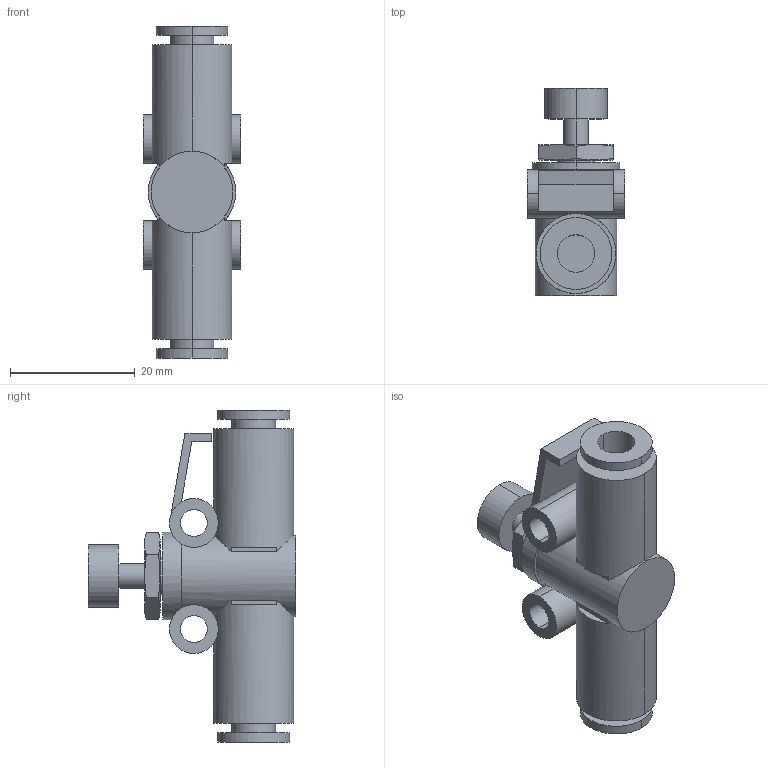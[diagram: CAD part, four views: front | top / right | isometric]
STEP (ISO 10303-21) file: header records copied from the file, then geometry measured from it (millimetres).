
FILE_DESCRIPTION( ( '' ), '1' );
FILE_NAME( 'G:/SMC狟婥/AS2052F-06.stp', '2023-03-08T06:08:56', ( '' ), ( '' ), ' ', ' ', ' ' );
FILE_SCHEMA( ( 'CONFIG_CONTROL_DESIGN' ) );
Length unit declared in the file: millimetre
Products named in the file (1): 1
Bounding box: 15.7 x 33.2 x 53.2 mm (x, y, z)
Volume: 8890.4 mm3; surface area: 5782 mm2
Topology: 1 solids, 1 shells, 79 faces, 192 edges, 126 vertices
Faces by surface type: plane 41, cylinder 34, cone 4
Entity records: 3008 total; most frequent: CARTESIAN_POINT 1106, DIRECTION 390, ORIENTED_EDGE 384, EDGE_CURVE 192, AXIS2_PLACEMENT_3D 154, VERTEX_POINT 126, EDGE_LOOP 94, LINE 82
